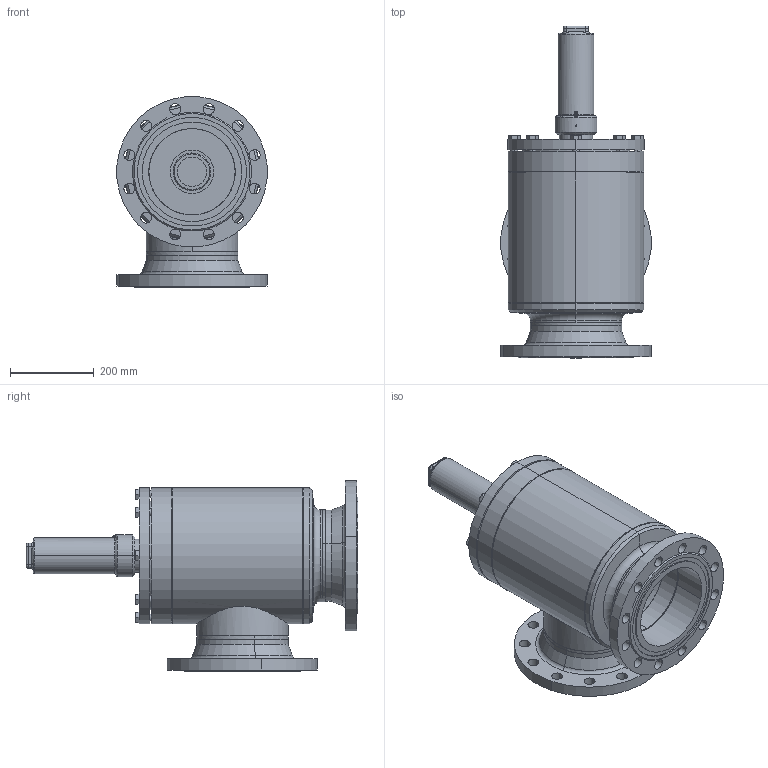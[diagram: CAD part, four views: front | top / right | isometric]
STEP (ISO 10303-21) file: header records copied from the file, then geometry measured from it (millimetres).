
FILE_DESCRIPTION (( 'STEP AP214' ), '1' );
FILE_NAME ('HRAR22420C23-DN200_DIN-FL-N_PS25.STEP', '2010-06-16T11:32:00', ( 'Eckhard Grams' ), ( 'AWP Kälte Klima Armaturen GmbH' ), 'SwSTEP 2.0', 'SolidWorks 2002296', '' );
FILE_SCHEMA (( 'AUTOMOTIVE_DESIGN' ));
Length unit declared in the file: millimetre
Products named in the file (19): HRAR22420C23-DN200_DIN-FL-N_PS25; Geh,kpl16420-DN200_DIN_PS25_Standard; Flansch-DIN2634-Nut_PS25_DIN-Flansch-DN200_PS25-Nut; Rohrstutzen-A16300-DN200_R1_Standard; Boden16300-DN200_Standard; Gehäuse16300-DN200_Standard; Kopfstück16300-DN200_Standard; bead Geh,kpl 16420-23-1_Standard; bead Geh,kpl 16420-23-3_Standard; bead Geh,kpl 16420-23-4_Standard; bead Geh,kpl 16420-23-2_Standard; AVR26300B23_Deck+Schr-DN200_Standard; Deckel,kpl26300B23-DN200_Standard; bead-deck264-200_Standard; bead-deck263-200_Standard; Buchse f Deckel16300-DN200_Standard; Scheibe f Deckel16300-DN200_Standard; Sechskantschraube-DIN933_M16x 45; Kappe 16402-23_DN200-350 (M80x3)_Standard
Assembly tree (26 placements, depth 4):
  HRAR22420C23-DN200_DIN-FL-N_PS25
    Geh,kpl16420-DN200_DIN_PS25_Standard
      bead Geh,kpl 16420-23-2_Standard
      Gehäuse16300-DN200_Standard
      bead Geh,kpl 16420-23-1_Standard
      Flansch-DIN2634-Nut_PS25_DIN-Flansch-DN200_PS25-Nut  x2
      Rohrstutzen-A16300-DN200_R1_Standard
      Kopfstück16300-DN200_Standard
      bead Geh,kpl 16420-23-4_Standard
      Boden16300-DN200_Standard
      bead Geh,kpl 16420-23-3_Standard
    AVR26300B23_Deck+Schr-DN200_Standard
      Sechskantschraube-DIN933_M16x 45  x8
      Deckel,kpl26300B23-DN200_Standard
        bead-deck264-200_Standard
        bead-deck263-200_Standard
        Scheibe f Deckel16300-DN200_Standard
        Buchse f Deckel16300-DN200_Standard
    Kappe 16402-23_DN200-350 (M80x3)_Standard
Bounding box: 358.63 x 793 x 455.31 mm (x, y, z)
Volume: 15714163.5 mm3; surface area: 2179394.6 mm2
Topology: 23 solids, 23 shells, 533 faces, 1227 edges, 739 vertices
Faces by surface type: cylinder 186, cone 154, plane 132, bspline 41, torus 20
Entity records: 28297 total; most frequent: CARTESIAN_POINT 20197, DIRECTION 1549, ORIENTED_EDGE 1446, EDGE_CURVE 723, AXIS2_PLACEMENT_3D 673, VERTEX_POINT 443, EDGE_LOOP 380, CIRCLE 372
